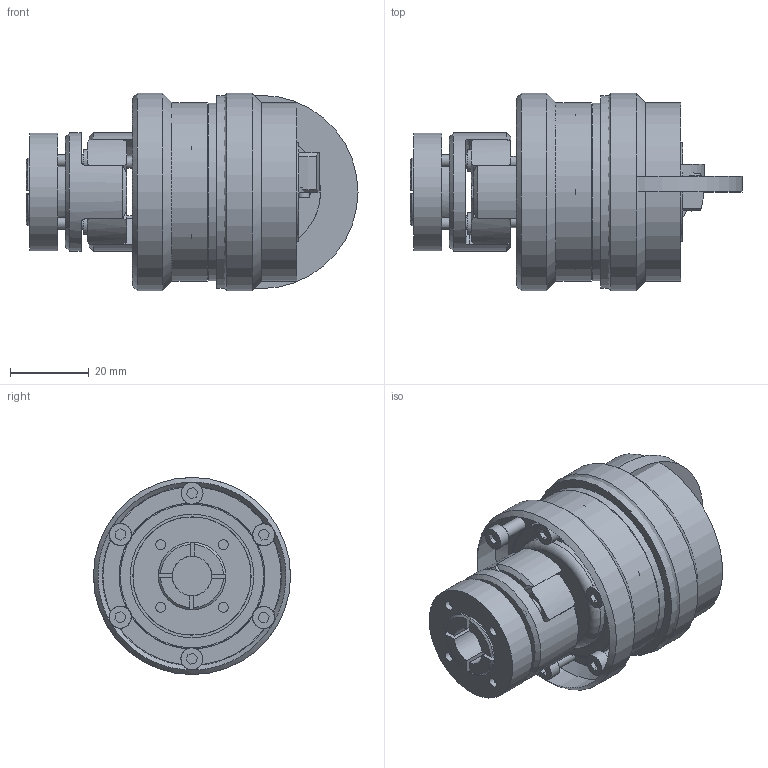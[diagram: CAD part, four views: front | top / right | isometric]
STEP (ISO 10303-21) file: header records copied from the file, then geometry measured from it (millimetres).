
FILE_DESCRIPTION( ( 'Unknown' ), '1' );
FILE_NAME( 'C:/Dokumente und Einstellungen/Sven/Desktop/hp kbk/E-AI/KBK EAI 14-68.stp', 'Unknown', ( 'Unknown' ), ( 'Unknown' ), 'XStep 1.0', 'Unknown', ' ' );
FILE_SCHEMA( ( 'automotive_design' ) );
Length unit declared in the file: millimetre
Products named in the file (19): Assem1; Assem2; Assem3; Assem4; Zylinderschraube DIN 912; ball_bearing_-_61904_0_01; ball_bearing_-_61904_0_02; ball_bearing_-_61904_0_03; Stellring 10; Druckring 10; a_20; Flansch L-LL10; Elastomerflansch EK 10; Zahnkranz_14_Standard; KBE3-14_Druckring; KBK L-I-10 Grundkörper; Konusbuchse KBK 10; din_en_24017_m3x12; KBE 3 C - 14 Nabe
Bounding box: 84.2 x 50 x 50 mm (x, y, z)
Volume: 126862.9 mm3; surface area: 91062 mm2
Topology: 47 solids, 47 shells, 888 faces, 2008 edges, 1281 vertices
Faces by surface type: plane 397, cylinder 280, cone 171, torus 40
Full cylindrical faces by diameter (mm): 2 x4, 2.459 x32, 2.5 x8, 2.85 x8, 3 x26, 3.1 x8, 3.4 x12, 4.57 x5, 5.5 x13, 5.6 x12, 6 x12, 10 x6, 14 x2, 15 x2, 16 x2, 18.4 x2, 19 x2, 20 x7, 24 x4, 25 x4, 25.6 x6, 29 x2, 29.993 x2, 30 x6, 31.4 x6, 37 x7, 38 x2, 40 x2, 45 x2, 45.2 x2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
Entity records: 9608 total; most frequent: CARTESIAN_POINT 1918, DIRECTION 1616, ORIENTED_EDGE 1214, AXIS2_PLACEMENT_3D 743, EDGE_CURVE 607, EDGE_LOOP 542, VERTEX_POINT 445, FACE_OUTER_BOUND 429
